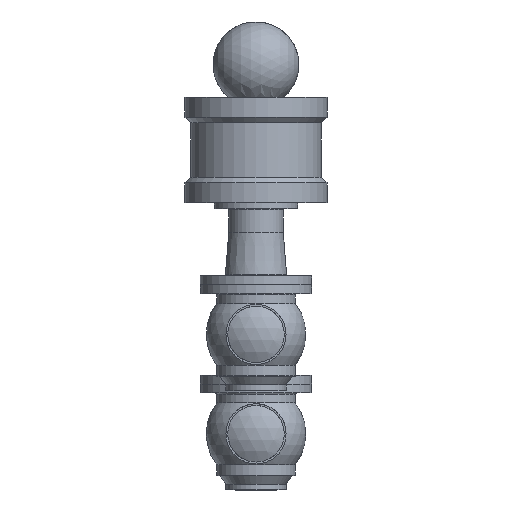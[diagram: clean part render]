
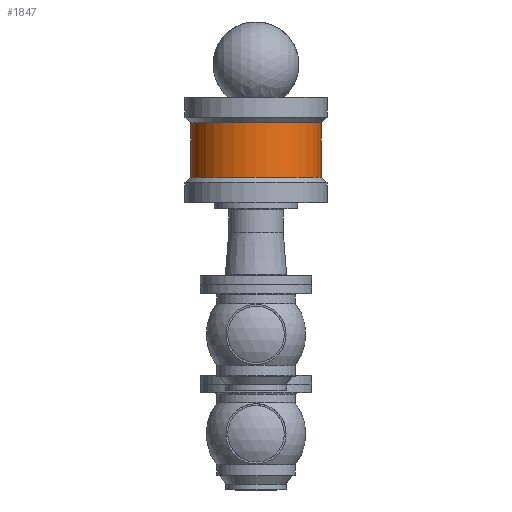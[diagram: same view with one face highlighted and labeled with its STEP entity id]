
A CAD part, left-side view. The second image highlights one B-rep face of the part: STEP entity #1847.
In plain terms, the highlighted cylindrical face has radius 110.5 mm (diameter 221 mm), a full revolution.
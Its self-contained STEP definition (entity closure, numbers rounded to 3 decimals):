
#210=LINE('',#3285,#258);
#258=VECTOR('',#2584,110.5);
#302=CYLINDRICAL_SURFACE('',#2149,110.5);
#382=FACE_OUTER_BOUND('',#490,.T.);
#490=EDGE_LOOP('',(#1375,#1376,#1377,#1378,#1379,#1380));
#638=CIRCLE('',#2147,110.5);
#639=CIRCLE('',#2148,110.5);
#640=CIRCLE('',#2150,110.5);
#641=CIRCLE('',#2151,110.5);
#836=VERTEX_POINT('',#3275);
#837=VERTEX_POINT('',#3276);
#838=VERTEX_POINT('',#3281);
#839=VERTEX_POINT('',#3282);
#1051=EDGE_CURVE('',#836,#837,#638,.T.);
#1052=EDGE_CURVE('',#837,#836,#639,.T.);
#1054=EDGE_CURVE('',#838,#839,#640,.T.);
#1055=EDGE_CURVE('',#839,#838,#641,.T.);
#1056=EDGE_CURVE('',#839,#837,#210,.T.);
#1375=ORIENTED_EDGE('',*,*,#1054,.F.);
#1376=ORIENTED_EDGE('',*,*,#1055,.F.);
#1377=ORIENTED_EDGE('',*,*,#1056,.T.);
#1378=ORIENTED_EDGE('',*,*,#1052,.T.);
#1379=ORIENTED_EDGE('',*,*,#1051,.T.);
#1380=ORIENTED_EDGE('',*,*,#1056,.F.);
#1847=ADVANCED_FACE('',(#382),#302,.T.);
#2147=AXIS2_PLACEMENT_3D('',#3277,#2573,#2574);
#2148=AXIS2_PLACEMENT_3D('',#3278,#2575,#2576);
#2149=AXIS2_PLACEMENT_3D('',#3280,#2578,#2579);
#2150=AXIS2_PLACEMENT_3D('',#3283,#2580,#2581);
#2151=AXIS2_PLACEMENT_3D('',#3284,#2582,#2583);
#2573=DIRECTION('center_axis',(0.,1.,0.));
#2574=DIRECTION('ref_axis',(1.,0.,0.));
#2575=DIRECTION('center_axis',(0.,1.,0.));
#2576=DIRECTION('ref_axis',(1.,0.,0.));
#2578=DIRECTION('center_axis',(0.,1.,0.));
#2579=DIRECTION('ref_axis',(0.,0.,1.));
#2580=DIRECTION('center_axis',(0.,1.,0.));
#2581=DIRECTION('ref_axis',(1.,0.,0.));
#2582=DIRECTION('center_axis',(0.,1.,0.));
#2583=DIRECTION('ref_axis',(1.,0.,0.));
#2584=DIRECTION('',(0.,-1.,0.));
#3275=CARTESIAN_POINT('',(0.,43.,110.5));
#3276=CARTESIAN_POINT('',(0.,43.,-110.5));
#3277=CARTESIAN_POINT('Origin',(0.,43.,0.));
#3278=CARTESIAN_POINT('Origin',(0.,43.,0.));
#3280=CARTESIAN_POINT('Origin',(0.,89.,0.));
#3281=CARTESIAN_POINT('',(0.,135.,110.5));
#3282=CARTESIAN_POINT('',(0.,135.,-110.5));
#3283=CARTESIAN_POINT('Origin',(0.,135.,0.));
#3284=CARTESIAN_POINT('Origin',(0.,135.,0.));
#3285=CARTESIAN_POINT('',(0.,89.,-110.5));
